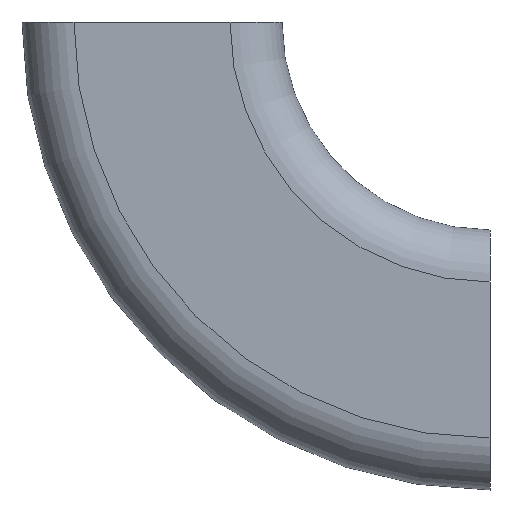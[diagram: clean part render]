
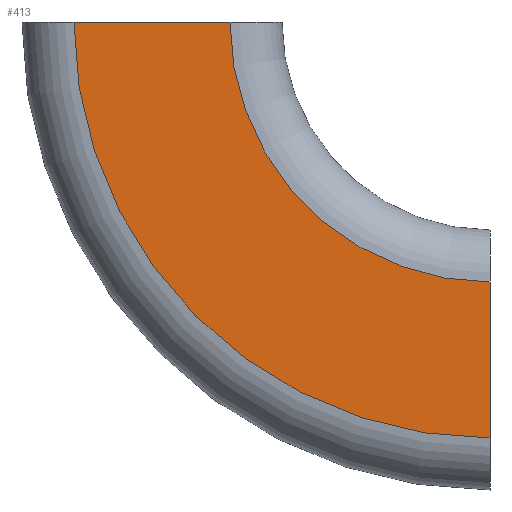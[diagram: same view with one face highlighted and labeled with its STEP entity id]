
A CAD part, left-side view. The second image highlights one B-rep face of the part: STEP entity #413.
In plain terms, the highlighted planar face has unit normal (-1, 0, 0).
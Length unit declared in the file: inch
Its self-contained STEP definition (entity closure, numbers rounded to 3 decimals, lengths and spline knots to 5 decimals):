
#345=CARTESIAN_POINT('',(-0.625,-1.625,-2.0));
#346=VERTEX_POINT('',#345);
#354=CARTESIAN_POINT('',(-0.625,0.375,0.0));
#355=VERTEX_POINT('',#354);
#356=CARTESIAN_POINT('',(-0.625,-1.625,0.0));
#357=DIRECTION('',(-1.0,0.0,0.0));
#358=DIRECTION('',(0.0,1.0,0.0));
#359=AXIS2_PLACEMENT_3D('',#356,#357,#358);
#360=CIRCLE('',#359,2.0);
#361=EDGE_CURVE('',#355,#346,#360,.T.);
#382=CARTESIAN_POINT('',(-0.625,0.,0.0));
#383=DIRECTION('',(-1.0,0.0,0.0));
#384=DIRECTION('',(0.0,0.0,1.0));
#385=AXIS2_PLACEMENT_3D('',#382,#383,#384);
#386=PLANE('',#385);
#387=CARTESIAN_POINT('',(-0.625,-1.625,-1.25));
#388=VERTEX_POINT('',#387);
#389=CARTESIAN_POINT('',(-0.625,-1.625,-2.));
#390=DIRECTION('',(0.0,0.0,1.0));
#391=VECTOR('',#390,0.75);
#392=LINE('',#389,#391);
#393=EDGE_CURVE('',#346,#388,#392,.T.);
#394=ORIENTED_EDGE('',*,*,#393,.T.);
#395=CARTESIAN_POINT('',(-0.625,-0.375,0.0));
#396=VERTEX_POINT('',#395);
#397=CARTESIAN_POINT('',(-0.625,-1.625,0.0));
#398=DIRECTION('',(-1.0,0.0,0.0));
#399=DIRECTION('',(0.0,1.0,0.0));
#400=AXIS2_PLACEMENT_3D('',#397,#398,#399);
#401=CIRCLE('',#400,1.25);
#402=EDGE_CURVE('',#396,#388,#401,.T.);
#403=ORIENTED_EDGE('',*,*,#402,.F.);
#404=CARTESIAN_POINT('',(-0.625,0.375,0.0));
#405=DIRECTION('',(0.0,-1.0,0.0));
#406=VECTOR('',#405,0.75);
#407=LINE('',#404,#406);
#408=EDGE_CURVE('',#355,#396,#407,.T.);
#409=ORIENTED_EDGE('',*,*,#408,.F.);
#410=ORIENTED_EDGE('',*,*,#361,.T.);
#411=EDGE_LOOP('',(#394,#403,#409,#410));
#412=FACE_OUTER_BOUND('',#411,.T.);
#413=ADVANCED_FACE('',(#412),#386,.T.);
